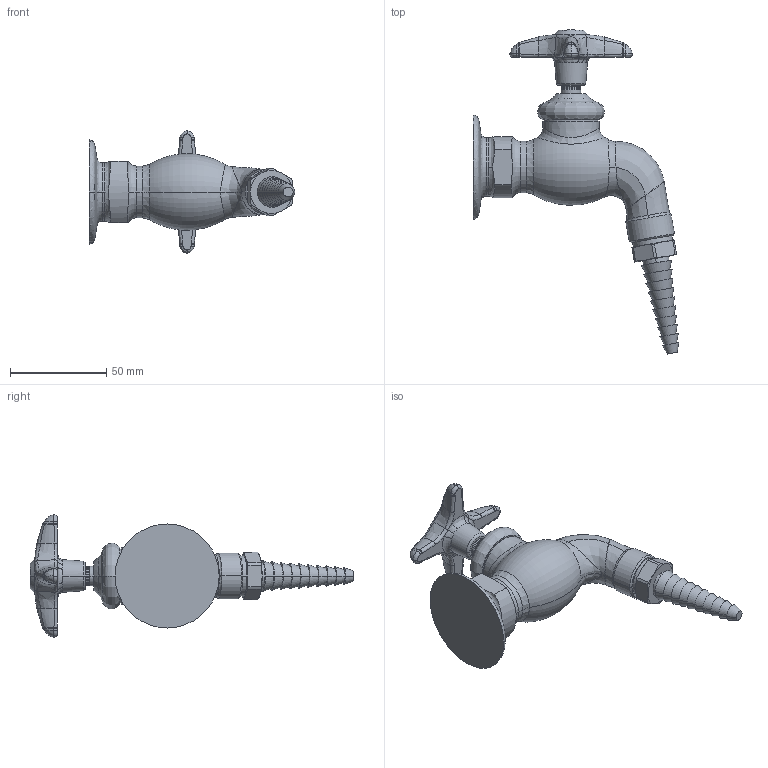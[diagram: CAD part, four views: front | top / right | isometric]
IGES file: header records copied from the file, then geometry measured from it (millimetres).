
Start section:  PTC IGES file: LWV3-C11.igs
Global section: file name: LWV3-C11.igs; native system: Creo Parametric by PTC Inc.; preprocessor: 2014500; author: usch_engrender; organization: Unknown; date: 20150910.121950; units: inch
Bounding box: 106.74 x 168.13 x 63.42 mm (x, y, z)
Volume: 128740.4 mm3; surface area: 25575.1 mm2
Topology: 1 solids, 2 shells, 289 faces, 636 edges, 369 vertices
Faces by surface type: bspline 181, revolution 108
